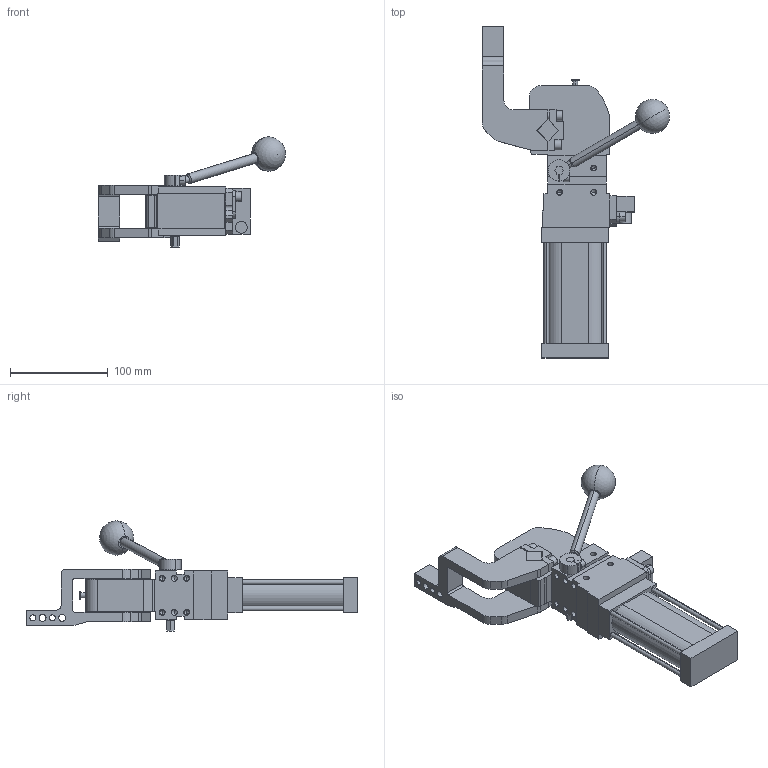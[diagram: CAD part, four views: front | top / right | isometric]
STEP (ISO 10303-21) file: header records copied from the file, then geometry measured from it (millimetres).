
FILE_DESCRIPTION (( 'STEP AP214' ), '1' );
FILE_NAME ('cplm40lah3di1g_108.STEP', '2021-05-25T12:45:49', ( '' ), ( '' ), 'SwSTEP 2.0', 'SolidWorks 2021', '' );
FILE_SCHEMA (( 'AUTOMOTIVE_DESIGN' ));
Length unit declared in the file: millimetre
Products named in the file (6): blocchetto_VEP_0_cpl40; meccanica_cplm40; leva_v3s_cpl40; comando_manuale_cplm_40; piastra_blocchetto_cpl40; cplm40lah3di1g_108
Assembly tree (5 placements, depth 2):
  cplm40lah3di1g_108
    meccanica_cplm40
    blocchetto_VEP_0_cpl40
    piastra_blocchetto_cpl40
    leva_v3s_cpl40
    comando_manuale_cplm_40
Bounding box: 191.69 x 340 x 112.66 mm (x, y, z)
Volume: 826523.5 mm3; surface area: 131070.1 mm2
Topology: 6 solids, 6 shells, 471 faces, 1213 edges, 765 vertices
Faces by surface type: plane 261, cylinder 162, cone 46, sphere 2
Entity records: 15653 total; most frequent: CARTESIAN_POINT 2525, DIRECTION 2500, ORIENTED_EDGE 2332, EDGE_CURVE 1166, AXIS2_PLACEMENT_3D 859, VECTOR 782, LINE 782, VERTEX_POINT 762
